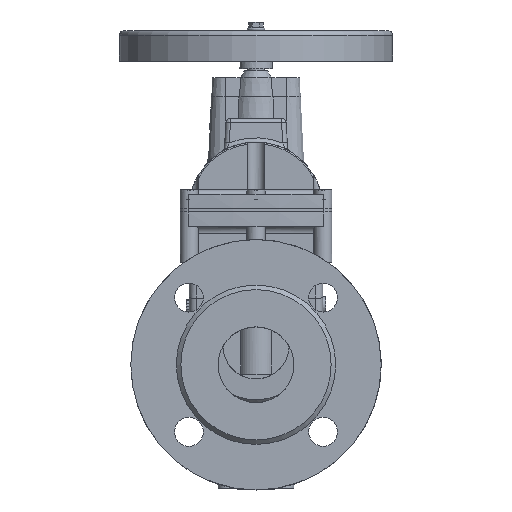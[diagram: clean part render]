
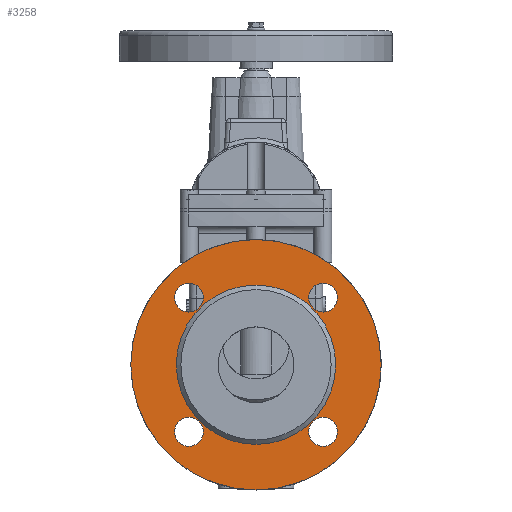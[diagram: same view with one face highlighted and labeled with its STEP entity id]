
A CAD part, left-side view. The second image highlights one B-rep face of the part: STEP entity #3258.
In plain terms, the highlighted planar face has unit normal (-1, 0, 0).
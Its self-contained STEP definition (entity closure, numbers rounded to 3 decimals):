
#3258=ADVANCED_FACE('',(#8222,#8224,#8226,#8228,#8230,#8232),#8234,.F.);
#8222=FACE_BOUND('',#8223,.T.);
#8223=EDGE_LOOP('',(#16887));
#8224=FACE_BOUND('',#8225,.T.);
#8225=EDGE_LOOP('',(#16888));
#8226=FACE_BOUND('',#8227,.T.);
#8227=EDGE_LOOP('',(#16889));
#8228=FACE_BOUND('',#8229,.T.);
#8229=EDGE_LOOP('',(#16890));
#8230=FACE_BOUND('',#8231,.T.);
#8231=EDGE_LOOP('',(#16891));
#8232=FACE_BOUND('',#8233,.T.);
#8233=EDGE_LOOP('',(#16892));
#8234=PLANE('',#8235);
#8235=AXIS2_PLACEMENT_3D('',#8236,#8237,#8238);
#8236=CARTESIAN_POINT('',(-122.,0.,0.));
#8237=DIRECTION('',(1.,0.,0.));
#8238=DIRECTION('',(0.,1.,0.));
#16887=ORIENTED_EDGE('',*,*,#19516,.F.);
#16888=ORIENTED_EDGE('',*,*,#19526,.T.);
#16889=ORIENTED_EDGE('',*,*,#19525,.T.);
#16890=ORIENTED_EDGE('',*,*,#19524,.T.);
#16891=ORIENTED_EDGE('',*,*,#19622,.F.);
#16892=ORIENTED_EDGE('',*,*,#19523,.T.);
#19516=EDGE_CURVE('',#22108,#22108,#22109,.T.);
#19523=EDGE_CURVE('',#22118,#22118,#22119,.T.);
#19524=EDGE_CURVE('',#22120,#22120,#22121,.T.);
#19525=EDGE_CURVE('',#22122,#22122,#22123,.T.);
#19526=EDGE_CURVE('',#22124,#22124,#22125,.T.);
#19622=EDGE_CURVE('',#22270,#22270,#22271,.T.);
#22108=VERTEX_POINT('',#30561);
#22109=CIRCLE('',#30562,82.5);
#22118=VERTEX_POINT('',#30588);
#22119=CIRCLE('',#30589,9.5);
#22120=VERTEX_POINT('',#30593);
#22121=CIRCLE('',#30594,9.5);
#22122=VERTEX_POINT('',#30598);
#22123=CIRCLE('',#30599,9.5);
#22124=VERTEX_POINT('',#30603);
#22125=CIRCLE('',#30604,9.5);
#22270=VERTEX_POINT('',#30951);
#22271=CIRCLE('',#30952,52.5);
#30561=CARTESIAN_POINT('',(-122.,82.5,0.));
#30562=AXIS2_PLACEMENT_3D('',#30563,#30564,#30565);
#30563=CARTESIAN_POINT('',(-122.,0.,0.));
#30564=DIRECTION('',(1.,0.,0.));
#30565=DIRECTION('',(0.,1.,0.));
#30588=CARTESIAN_POINT('',(-122.,53.694,44.194));
#30589=AXIS2_PLACEMENT_3D('',#30590,#30591,#30592);
#30590=CARTESIAN_POINT('',(-122.,44.194,44.194));
#30591=DIRECTION('',(1.,0.,0.));
#30592=DIRECTION('',(0.,1.,0.));
#30593=CARTESIAN_POINT('',(-122.,44.194,-53.694));
#30594=AXIS2_PLACEMENT_3D('',#30595,#30596,#30597);
#30595=CARTESIAN_POINT('',(-122.,44.194,-44.194));
#30596=DIRECTION('',(1.,0.,0.));
#30597=DIRECTION('',(0.,0.,-1.));
#30598=CARTESIAN_POINT('',(-122.,-53.694,-44.194));
#30599=AXIS2_PLACEMENT_3D('',#30600,#30601,#30602);
#30600=CARTESIAN_POINT('',(-122.,-44.194,-44.194));
#30601=DIRECTION('',(1.,0.,0.));
#30602=DIRECTION('',(0.,-1.,0.));
#30603=CARTESIAN_POINT('',(-122.,-44.194,53.694));
#30604=AXIS2_PLACEMENT_3D('',#30605,#30606,#30607);
#30605=CARTESIAN_POINT('',(-122.,-44.194,44.194));
#30606=DIRECTION('',(1.,0.,0.));
#30607=DIRECTION('',(0.,0.,1.));
#30951=CARTESIAN_POINT('',(-122.,-52.5,0.));
#30952=AXIS2_PLACEMENT_3D('',#30953,#30954,#30955);
#30953=CARTESIAN_POINT('',(-122.,0.,0.));
#30954=DIRECTION('',(-1.,0.,0.));
#30955=DIRECTION('',(0.,-1.,0.));
